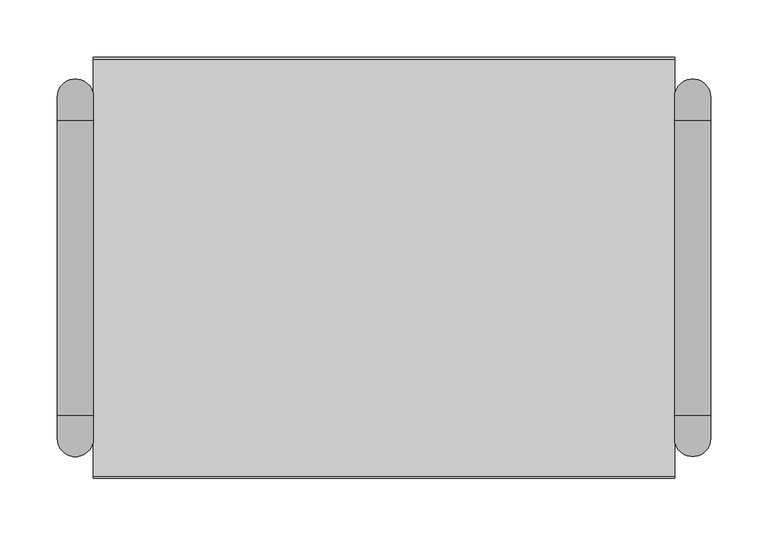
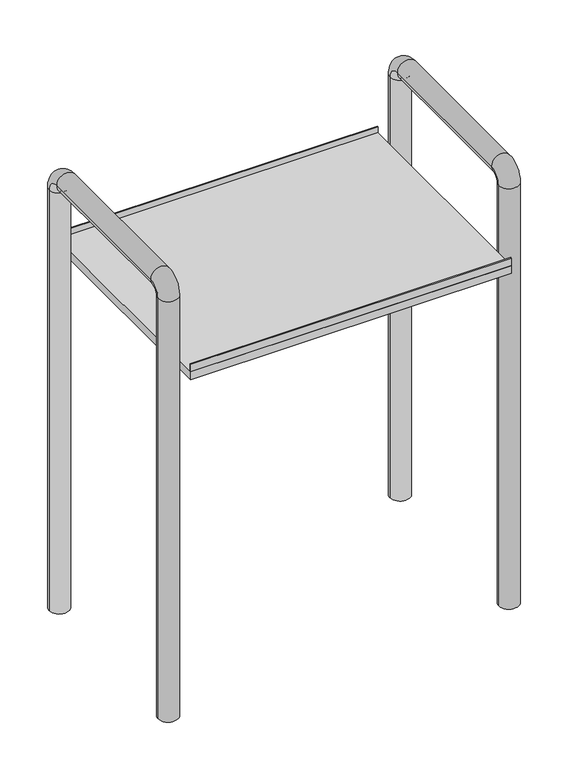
"""IFC4 building model written with IfcOpenShell, lengths in millimetres: furniture geometry, HermanMiller_Carts_CT788_Above-CartShelf : Abv Cart Shlf 20 Wide."""

import ifcopenshell
import ifcopenshell.guid

model = None  # the IFC model being written
_history = None  # IfcOwnerHistory: only IFC2X3 demands one
_inside = {}  # id of a spatial element -> (the spatial element, [elements in it])
_under = {}  # id of a project, library or spatial element -> (it, [spatial elements below it])
_declared = {}  # id of a project -> (the project, [libraries it declares])
_typed = {}  # id of a type object -> (the type object, [elements of that type])
_made_of = {}  # id of a material, layer set ... -> (it, [elements and type objects made of it])


def new_model(schema):
    """Start an empty IFC model of exactly this schema.

    Asked for "IFC4X3", IfcOpenShell would pick the latest addendum, in which some entities
    have other attributes; the version numbers below select the first issue.
    IFC2X3 requires an IfcOwnerHistory on every rooted entity: one is made here for all.
    """
    global model, _history
    if schema == "IFC4X3":
        model = ifcopenshell.file(schema_version=(4, 3, 0, 0))
    else:
        model = ifcopenshell.file(schema=schema)
    _inside.clear()
    _under.clear()
    _declared.clear()
    _typed.clear()
    _made_of.clear()
    _history = None
    if model.schema == "IFC2X3":
        org = make("IfcOrganization", Name="unknown")
        user = make(
            "IfcPersonAndOrganization",
            ThePerson=make("IfcPerson", FamilyName="unknown"),
            TheOrganization=org,
        )
        app = make(
            "IfcApplication",
            ApplicationDeveloper=org,
            Version="unknown",
            ApplicationFullName="unknown",
            ApplicationIdentifier="unknown",
        )
        _history = make(
            "IfcOwnerHistory",
            OwningUser=user,
            OwningApplication=app,
            ChangeAction="ADDED",
            CreationDate=0,
        )
    return model


def make(cls, **values):
    """One entity of the class cls with the attributes given. An attribute that is None is left unset."""
    return model.create_entity(
        cls, **{name: value for name, value in values.items() if value is not None}
    )


def rooted(cls, **values):
    """An entity with a GlobalId (a new one), such as an element, a storey or a relation."""
    return make(cls, GlobalId=ifcopenshell.guid.new(), OwnerHistory=_history, **values)


def si_unit(unit_type, name, prefix=None):
    """IfcSIUnit, for example si_unit("LENGTHUNIT", "METRE", prefix="MILLI")."""
    return make("IfcSIUnit", UnitType=unit_type, Prefix=prefix, Name=name)


def assignment(units):
    """IfcUnitAssignment: the units of a project."""
    return None if units is None else make("IfcUnitAssignment", Units=units)


def point(xyz):
    """IfcCartesianPoint."""
    return None if xyz is None else make("IfcCartesianPoint", Coordinates=xyz)


def direction(xyz):
    """IfcDirection."""
    return None if xyz is None else make("IfcDirection", DirectionRatios=xyz)


def frame(location, z_axis=None, x_axis=None):
    """IfcAxis2Placement3D, a coordinate frame: its origin and axes. An axis left out is left unset."""
    return make(
        "IfcAxis2Placement3D",
        Location=point(location),
        Axis=direction(z_axis),
        RefDirection=direction(x_axis),
    )


def origin():
    """The frame at (0, 0, 0) with its axes left unset."""
    return frame((0.0, 0.0, 0.0))


def place(relative_to, where):
    """IfcLocalPlacement: puts the frame where relative to a parent placement (None: the world)."""
    return make(
        "IfcLocalPlacement", PlacementRelTo=relative_to, RelativePlacement=where
    )


def context(
    kind, dimensions, precision=None, world=None, true_north=None, identifier=None
):
    """IfcGeometricRepresentationContext, for example the 3D "Model" context."""
    return make(
        "IfcGeometricRepresentationContext",
        ContextIdentifier=identifier,
        ContextType=kind,
        CoordinateSpaceDimension=dimensions,
        Precision=precision,
        WorldCoordinateSystem=world,
        TrueNorth=true_north,
    )


def project(units=None, contexts=None):
    """IfcProject with its units and contexts."""
    return rooted(
        "IfcProject",
        Name="project",
        RepresentationContexts=contexts,
        UnitsInContext=assignment(units),
    )


def spatial(cls, under=None, at=None, **own):
    """A site, building, storey or space (cls), placed at a placement, below another one or the project."""
    s = rooted(cls, ObjectPlacement=at, **own)
    if under is not None:
        _under.setdefault(under.id(), (under, []))[1].append(s)
    return s


def polyline(points):
    """IfcPolyline through the points."""
    return make("IfcPolyline", Points=[point(p) for p in points])


def circle_curve(where, radius):
    """IfcCircle in the frame where."""
    return make("IfcCircle", Position=where, Radius=radius)


def ellipse_curve(where, semi_axis1, semi_axis2):
    """IfcEllipse in the frame where."""
    return make(
        "IfcEllipse", Position=where, SemiAxis1=semi_axis1, SemiAxis2=semi_axis2
    )


def trimmed(basis, trim1, trim2, sense, master):
    """IfcTrimmedCurve: the piece of a basis curve between two trims."""
    return make(
        "IfcTrimmedCurve",
        BasisCurve=basis,
        Trim1=trim1,
        Trim2=trim2,
        SenseAgreement=sense,
        MasterRepresentation=master,
    )


def outline(outer, holes=None, kind="AREA"):
    """IfcArbitraryClosedProfileDef: a profile drawn as a closed curve; with holes, ...WithVoids."""
    if holes is None:
        return make("IfcArbitraryClosedProfileDef", ProfileType=kind, OuterCurve=outer)
    return make(
        "IfcArbitraryProfileDefWithVoids",
        ProfileType=kind,
        OuterCurve=outer,
        InnerCurves=holes,
    )


def extrude(swept, where, along, depth):
    """IfcExtrudedAreaSolid: the profile swept, set in the frame where, extruded along a direction by depth."""
    return make(
        "IfcExtrudedAreaSolid",
        SweptArea=swept,
        Position=where,
        ExtrudedDirection=direction(along),
        Depth=depth,
    )


def shape(context_of_items, identifier, shape_type, items):
    """IfcShapeRepresentation: the items that make up one representation, for example the "Body"."""
    return make(
        "IfcShapeRepresentation",
        ContextOfItems=context_of_items,
        RepresentationIdentifier=identifier,
        RepresentationType=shape_type,
        Items=items,
    )


def source(mapping_origin, context_of_items, identifier, shape_type, items):
    """IfcRepresentationMap: a shape defined once, which mapped items show again and again."""
    return make(
        "IfcRepresentationMap",
        MappingOrigin=mapping_origin,
        MappedRepresentation=shape(context_of_items, identifier, shape_type, items),
    )


def transform(
    local_origin,
    x_axis=None,
    y_axis=None,
    z_axis=None,
    scale=None,
    scale2=None,
    scale3=None,
    uniform=True,
):
    """IfcCartesianTransformationOperator3D, or its non-uniform kind. x_axis, y_axis, z_axis: its Axis1, 2, 3."""
    if uniform:
        return make(
            "IfcCartesianTransformationOperator3D",
            Axis1=direction(x_axis),
            Axis2=direction(y_axis),
            LocalOrigin=point(local_origin),
            Scale=scale,
            Axis3=direction(z_axis),
        )
    return make(
        "IfcCartesianTransformationOperator3DnonUniform",
        Axis1=direction(x_axis),
        Axis2=direction(y_axis),
        LocalOrigin=point(local_origin),
        Scale=scale,
        Axis3=direction(z_axis),
        Scale2=scale2,
        Scale3=scale3,
    )


def mapped(mapping_source, mapping_target):
    """IfcMappedItem: shows the shape of a source again, moved by a transform."""
    return make(
        "IfcMappedItem", MappingSource=mapping_source, MappingTarget=mapping_target
    )


def made_of(thing, what):
    """Note that an element or type object is made of a material, layer set ...; save() writes the relation."""
    if what is not None:
        _made_of.setdefault(what.id(), (what, []))[1].append(thing)
    return thing


def element(
    cls,
    number,
    at=None,
    inside=None,
    cuts=None,
    type_object=None,
    material=None,
    context=None,
    identifier="Body",
    shape_type=None,
    held_by="IfcProductDefinitionShape",
    body=None,
    shapes=None,
    **own,
):
    """One element of the class cls, such as IfcWall. Its Tag is "e" and its number.

    at: its placement. inside: the storey or other place that contains it. cuts: it is an
    opening in that element (IfcRelVoidsElement). A single representation is given by context,
    identifier, shape_type and body (its items); several are given by shapes. held_by: the class
    of the entity that holds the representations. save() writes the other relations.
    """
    e = rooted(cls, Tag="e%d" % number, ObjectPlacement=at, **own)
    if body is not None:
        shapes = [shape(context, identifier, shape_type, body)]
    if shapes is not None:
        e.Representation = make(held_by, Representations=shapes)
    if inside is not None:
        _inside.setdefault(inside.id(), (inside, []))[1].append(e)
    if cuts is not None:
        rooted(
            "IfcRelVoidsElement", RelatingBuildingElement=cuts, RelatedOpeningElement=e
        )
    if type_object is not None:
        _typed.setdefault(type_object.id(), (type_object, []))[1].append(e)
    return made_of(e, material)


def aggregate(whole, parts):
    """IfcRelAggregates: a whole, such as a stair, and the parts it consists of."""
    return rooted("IfcRelAggregates", RelatingObject=whole, RelatedObjects=parts)


def save(model, path):
    """Write the relations noted so far, then the file.

    IfcRelAggregates (storeys below a building ...), IfcRelContainedInSpatialStructure (elements
    in a storey), IfcRelDefinesByType, IfcRelAssociatesMaterial and IfcRelDeclares: one each for
    every whole, place, type object, material and project.
    """
    for whole, parts in _under.values():
        aggregate(whole, parts)
    for where, things in _inside.values():
        rooted(
            "IfcRelContainedInSpatialStructure",
            RelatedElements=things,
            RelatingStructure=where,
        )
    for kind, things in _typed.values():
        rooted("IfcRelDefinesByType", RelatedObjects=things, RelatingType=kind)
    for what, things in _made_of.values():
        rooted("IfcRelAssociatesMaterial", RelatedObjects=things, RelatingMaterial=what)
    for by, libraries in _declared.values():
        rooted("IfcRelDeclares", RelatingContext=by, RelatedDefinitions=libraries)
    model.write(path)


def plane_surface(at):
    """IfcPlane: the flat surface through the origin of the frame at, square to its z axis."""
    return make("IfcPlane", Position=at)


def cylinder_surface(at, radius):
    """IfcCylindricalSurface: all points at the distance radius from the z axis of the frame at."""
    return make("IfcCylindricalSurface", Position=at, Radius=radius)


def revolved_surface(curve, axis_point, axis_direction):
    """IfcSurfaceOfRevolution: the curve turned about the line through axis_point along axis_direction."""
    return make(
        "IfcSurfaceOfRevolution",
        SweptCurve=make("IfcArbitraryOpenProfileDef", ProfileType="CURVE", Curve=curve),
        AxisPosition=make("IfcAxis1Placement", Location=point(axis_point), Axis=direction(axis_direction)),
    )


def advanced_brep(points, edges, surfaces, faces):
    """IfcAdvancedBrep: a solid bounded by faces that lie on surfaces and meet in shared edges.

    An edge is (start, end): straight between two places in points (the first is 0);
    or (start, end, curve); or (start, end, curve, False) where it runs against its curve.
    A face is (place in surfaces, loops), or (place, loops, False) where it looks against
    its surface's normal. A loop lists edges by number (the first is 1), with a minus sign
    where the edge is run from its end to its start. The first loop is the outer one.
    """
    corners = [point(p) for p in points]
    vertices = [make("IfcVertexPoint", VertexGeometry=c) for c in corners]
    made = []
    for start, end, *more in edges:
        made.append(
            make(
                "IfcEdgeCurve",
                EdgeStart=vertices[start],
                EdgeEnd=vertices[end],
                EdgeGeometry=more[0] if more else make("IfcPolyline", Points=[corners[start], corners[end]]),
                SameSense=more[1] if len(more) > 1 else True,
            )
        )
    hull = []
    for where, loops, *sense in faces:
        bounds = []
        for j, loop in enumerate(loops):
            ring = [make("IfcOrientedEdge", EdgeElement=made[abs(k) - 1], Orientation=k > 0) for k in loop]
            bounds.append(
                make(
                    "IfcFaceOuterBound" if j == 0 else "IfcFaceBound",
                    Bound=make("IfcEdgeLoop", EdgeList=ring),
                    Orientation=True,
                )
            )
        hull.append(make("IfcAdvancedFace", Bounds=bounds, FaceSurface=surfaces[where], SameSense=sense[0] if sense else True))
    return make("IfcAdvancedBrep", Outer=make("IfcClosedShell", CfsFaces=hull))


def furniture_907d2fab(model_context):
    return source(origin(), model_context, "Body", "SolidModel", [
        extrude(outline(polyline([(238.1923483, 184.15), (238.1923483, -184.15), (-269.8076517, -184.15), (-269.8076517, 184.15), (238.1923483, 184.15)])), frame((0.0, 0.0, 1478.3523277), z_axis=(0.0, 0.0, 1.0), x_axis=(1.0, 0.0, 0.0)), (0.0, 0.0, 1.0), 12.7000969),
        extrude(outline(polyline([(-269.8076517, -184.15), (-269.8076517, 184.15), (238.1923483, 184.15), (238.1923483, -184.15), (-269.8076517, -184.15)])), frame((0.0, 0.0, 1478.3523277), z_axis=(0.0, 0.0, 1.0), x_axis=(1.0, 0.0, 0.0)), (0.0, 0.0, 1.0), 12.7000969),
        advanced_brep(
        [(238.1923483, 149.1641773, 900.5024246), (269.9423483, 149.1641773, 900.5024246), (238.1923483, 149.1641773, 1604.0915489), (269.9423483, 149.1641773, 1604.0915489), (269.9423483, 129.1268536, 1624.1288726), (238.1923483, 129.1268536, 1624.1288726), (238.1923483, -129.1269051, 1624.1288726), (269.9423483, -129.1269051, 1624.1288726), (269.9423483, -149.1641773, 1604.0916004), (238.1923483, -149.1641773, 1604.0916004), (238.1923483, -149.1641773, 900.5024246), (269.9423483, -149.1641773, 900.5024246)],
        [
            (0, 1, circle_curve(frame((254.0673483, 149.1641773, 900.5024246), z_axis=(0.0, 0.0, -1.0), x_axis=(1.0, 0.0, 0.0)), 15.875)),
            (1, 0, circle_curve(frame((254.0673483, 149.1641773, 900.5024246), z_axis=(0.0, 0.0, -1.0), x_axis=(1.0, 0.0, 0.0)), 15.875)),
            (0, 2),
            (2, 3, circle_curve(frame((254.0673483, 149.1641773, 1604.0915489), z_axis=(0.0, 0.0, -1.0), x_axis=(1.0, 0.0, 0.0)), 15.875)),
            (3, 1),
            (3, 2, circle_curve(frame((254.0673483, 149.1641773, 1604.0915489), z_axis=(0.0, 0.0, -1.0), x_axis=(1.0, 0.0, 0.0)), 15.875)),
            (4, 3, circle_curve(frame((269.9423483, 129.1268536, 1604.0915489), z_axis=(-1.0, 0.0, 0.0), x_axis=(0.0, 1.0, 0.0)), 20.0373237)),
            (2, 5, circle_curve(frame((238.1923483, 129.1268536, 1604.0915489), z_axis=(1.0, 0.0, 0.0), x_axis=(0.0, 1.0, 0.0)), 20.0373237)),
            (5, 4, circle_curve(frame((254.0673483, 129.1268536, 1624.1288726), z_axis=(0.0, 1.0, 0.0), x_axis=(1.0, 0.0, 0.0)), 15.875)),
            (4, 5, circle_curve(frame((254.0673483, 129.1268536, 1624.1288726), z_axis=(0.0, 1.0, 0.0), x_axis=(1.0, 0.0, 0.0)), 15.875)),
            (5, 6),
            (6, 7, circle_curve(frame((254.0673483, -129.1269051, 1624.1288726), z_axis=(0.0, 1.0, 0.0), x_axis=(1.0, 0.0, 0.0)), 15.875)),
            (7, 4),
            (7, 6, circle_curve(frame((254.0673483, -129.1269051, 1624.1288726), z_axis=(0.0, 1.0, 0.0), x_axis=(1.0, 0.0, 0.0)), 15.875)),
            (8, 7, circle_curve(frame((269.9423483, -129.1269051, 1604.0916004), z_axis=(-1.0, 0.0, 0.0), x_axis=(0.0, 0.0, 1.0)), 20.0372722)),
            (6, 9, circle_curve(frame((238.1923483, -129.1269051, 1604.0916004), z_axis=(1.0, 0.0, 0.0), x_axis=(0.0, 0.0, 1.0)), 20.0372722)),
            (9, 8, circle_curve(frame((254.0673483, -149.1641773, 1604.0916004), z_axis=(0.0, 0.0, 1.0), x_axis=(1.0, 0.0, 0.0)), 15.875)),
            (8, 9, circle_curve(frame((254.0673483, -149.1641773, 1604.0916004), z_axis=(0.0, 0.0, 1.0), x_axis=(1.0, 0.0, 0.0)), 15.875)),
            (10, 11, circle_curve(frame((254.0673483, -149.1641773, 900.5024246), z_axis=(0.0, 0.0, -1.0), x_axis=(1.0, 0.0, 0.0)), 15.875)),
            (11, 10, circle_curve(frame((254.0673483, -149.1641773, 900.5024246), z_axis=(0.0, 0.0, -1.0), x_axis=(1.0, 0.0, 0.0)), 15.875)),
            (9, 10),
            (11, 8),
        ],
        [
            plane_surface(frame((0.0673483, 165.1, 900.5024246), z_axis=(0.0, 0.0, -1.0), x_axis=(1.0, 0.0, 0.0))),
            cylinder_surface(frame((254.0673483, 149.1641773, 900.5024246), z_axis=(0.0, 0.0, -1.0), x_axis=(1.0, 0.0, 0.0)), 15.875),
            revolved_surface(trimmed(ellipse_curve(frame((254.0673483, 149.1641773, 1604.0915489), z_axis=(0.0, 0.0, -1.0), x_axis=(1.0, 0.0, 0.0)), 15.875, 15.875), [point((238.1923483, 149.1641773, 1604.0915489))], [point((269.9423483, 149.1641773, 1604.0915489))], True, "CARTESIAN"), (0.0673483, 129.1268536, 1604.0915489), (1.0, 0.0, 0.0)),
            revolved_surface(trimmed(ellipse_curve(frame((254.0673483, 149.1641773, 1604.0915489), z_axis=(0.0, 0.0, -1.0), x_axis=(1.0, 0.0, 0.0)), 15.875, 15.875), [point((269.9423483, 149.1641773, 1604.0915489))], [point((238.1923483, 149.1641773, 1604.0915489))], True, "CARTESIAN"), (0.0673483, 129.1268536, 1604.0915489), (1.0, 0.0, 0.0)),
            cylinder_surface(frame((254.0673483, 129.1268536, 1624.1288726), z_axis=(0.0, 1.0, 0.0), x_axis=(1.0, 0.0, 0.0)), 15.875),
            revolved_surface(trimmed(ellipse_curve(frame((254.0673483, -129.1269051, 1624.1288726), z_axis=(0.0, 1.0, 0.0), x_axis=(1.0, 0.0, 0.0)), 15.875, 15.875), [point((238.1923483, -129.1269051, 1624.1288726))], [point((269.9423483, -129.1269051, 1624.1288726))], True, "CARTESIAN"), (0.0673483, -129.1269051, 1604.0916004), (1.0, 0.0, 0.0)),
            revolved_surface(trimmed(ellipse_curve(frame((254.0673483, -129.1269051, 1624.1288726), z_axis=(0.0, 1.0, 0.0), x_axis=(1.0, 0.0, 0.0)), 15.875, 15.875), [point((269.9423483, -129.1269051, 1624.1288726))], [point((238.1923483, -129.1269051, 1624.1288726))], True, "CARTESIAN"), (0.0673483, -129.1269051, 1604.0916004), (1.0, 0.0, 0.0)),
            plane_surface(frame((0.0673483, -165.1, 900.5024246), z_axis=(0.0, 0.0, -1.0), x_axis=(1.0, 0.0, 0.0))),
            cylinder_surface(frame((254.0673483, -149.1641773, 1604.0916004), z_axis=(0.0, 0.0, 1.0), x_axis=(1.0, 0.0, 0.0)), 15.875),
        ],
        [
            (0, [[1, 2]]),
            (1, [[-1, 3, 4, 5]]),
            (1, [[-2, -5, 6, -3]]),
            (2, [[7, -4, 8, 9]]),
            (3, [[-8, -6, -7, 10]]),
            (4, [[-9, 11, 12, 13]]),
            (4, [[-10, -13, 14, -11]]),
            (5, [[15, -12, 16, 17]]),
            (6, [[-16, -14, -15, 18]]),
            (7, [[19, 20]]),
            (8, [[-17, 21, -20, 22]]),
            (8, [[-18, -22, -19, -21]]),
        ],
    ),
        advanced_brep(
        [(-301.5576517, 149.225, 900.5024246), (-269.8076517, 149.225, 900.5024246), (-301.5576517, 149.225, 1604.0915489), (-269.8076517, 149.225, 1604.0915489), (-269.8076517, 129.1268536, 1624.1896954), (-301.5576517, 129.1268536, 1624.1896954), (-301.5576517, -129.1269051, 1624.1896954), (-269.8076517, -129.1269051, 1624.1896954), (-269.8076517, -149.225, 1604.0916004), (-301.5576517, -149.225, 1604.0916004), (-301.5576517, -149.225, 900.5024246), (-269.8076517, -149.225, 900.5024246)],
        [
            (0, 1, circle_curve(frame((-285.6826517, 149.225, 900.5024246), z_axis=(0.0, 0.0, -1.0), x_axis=(1.0, 0.0, 0.0)), 15.875)),
            (1, 0, circle_curve(frame((-285.6826517, 149.225, 900.5024246), z_axis=(0.0, 0.0, -1.0), x_axis=(1.0, 0.0, 0.0)), 15.875)),
            (0, 2),
            (2, 3, circle_curve(frame((-285.6826517, 149.225, 1604.0915489), z_axis=(0.0, 0.0, -1.0), x_axis=(1.0, 0.0, 0.0)), 15.875)),
            (3, 1),
            (3, 2, circle_curve(frame((-285.6826517, 149.225, 1604.0915489), z_axis=(0.0, 0.0, -1.0), x_axis=(1.0, 0.0, 0.0)), 15.875)),
            (4, 3, circle_curve(frame((-269.8076517, 129.1268536, 1604.0915489), z_axis=(-1.0, 0.0, 0.0), x_axis=(0.0, 1.0, 0.0)), 20.0981464)),
            (2, 5, circle_curve(frame((-301.5576517, 129.1268536, 1604.0915489), z_axis=(1.0, 0.0, 0.0), x_axis=(0.0, 1.0, 0.0)), 20.0981464)),
            (5, 4, circle_curve(frame((-285.6826517, 129.1268536, 1624.1896954), z_axis=(0.0, 1.0, 0.0), x_axis=(1.0, 0.0, 0.0)), 15.875)),
            (4, 5, circle_curve(frame((-285.6826517, 129.1268536, 1624.1896954), z_axis=(0.0, 1.0, 0.0), x_axis=(1.0, 0.0, 0.0)), 15.875)),
            (5, 6),
            (6, 7, circle_curve(frame((-285.6826517, -129.1269051, 1624.1896954), z_axis=(0.0, 1.0, 0.0), x_axis=(1.0, 0.0, 0.0)), 15.875)),
            (7, 4),
            (7, 6, circle_curve(frame((-285.6826517, -129.1269051, 1624.1896954), z_axis=(0.0, 1.0, 0.0), x_axis=(1.0, 0.0, 0.0)), 15.875)),
            (8, 7, circle_curve(frame((-269.8076517, -129.1269051, 1604.0916004), z_axis=(-1.0, 0.0, 0.0), x_axis=(0.0, 0.0, 1.0)), 20.0980949)),
            (6, 9, circle_curve(frame((-301.5576517, -129.1269051, 1604.0916004), z_axis=(1.0, 0.0, 0.0), x_axis=(0.0, 0.0, 1.0)), 20.0980949)),
            (9, 8, circle_curve(frame((-285.6826517, -149.225, 1604.0916004), z_axis=(0.0, 0.0, 1.0), x_axis=(1.0, 0.0, 0.0)), 15.875)),
            (8, 9, circle_curve(frame((-285.6826517, -149.225, 1604.0916004), z_axis=(0.0, 0.0, 1.0), x_axis=(1.0, 0.0, 0.0)), 15.875)),
            (10, 11, circle_curve(frame((-285.6826517, -149.225, 900.5024246), z_axis=(0.0, 0.0, -1.0), x_axis=(1.0, 0.0, 0.0)), 15.875)),
            (11, 10, circle_curve(frame((-285.6826517, -149.225, 900.5024246), z_axis=(0.0, 0.0, -1.0), x_axis=(1.0, 0.0, 0.0)), 15.875)),
            (9, 10),
            (11, 8),
        ],
        [
            plane_surface(frame((0.0673483, 165.1, 900.5024246), z_axis=(0.0, 0.0, -1.0), x_axis=(1.0, 0.0, 0.0))),
            cylinder_surface(frame((-285.6826517, 149.225, 900.5024246), z_axis=(0.0, 0.0, -1.0), x_axis=(1.0, 0.0, 0.0)), 15.875),
            revolved_surface(trimmed(ellipse_curve(frame((-285.6826517, 149.225, 1604.0915489), z_axis=(0.0, 0.0, -1.0), x_axis=(1.0, 0.0, 0.0)), 15.875, 15.875), [point((-301.5576517, 149.225, 1604.0915489))], [point((-269.8076517, 149.225, 1604.0915489))], True, "CARTESIAN"), (0.0673483, 129.1268536, 1604.0915489), (1.0, 0.0, 0.0)),
            revolved_surface(trimmed(ellipse_curve(frame((-285.6826517, 149.225, 1604.0915489), z_axis=(0.0, 0.0, -1.0), x_axis=(1.0, 0.0, 0.0)), 15.875, 15.875), [point((-269.8076517, 149.225, 1604.0915489))], [point((-301.5576517, 149.225, 1604.0915489))], True, "CARTESIAN"), (0.0673483, 129.1268536, 1604.0915489), (1.0, 0.0, 0.0)),
            cylinder_surface(frame((-285.6826517, 129.1268536, 1624.1896954), z_axis=(0.0, 1.0, 0.0), x_axis=(1.0, 0.0, 0.0)), 15.875),
            revolved_surface(trimmed(ellipse_curve(frame((-285.6826517, -129.1269051, 1624.1896954), z_axis=(0.0, 1.0, 0.0), x_axis=(1.0, 0.0, 0.0)), 15.875, 15.875), [point((-301.5576517, -129.1269051, 1624.1896954))], [point((-269.8076517, -129.1269051, 1624.1896954))], True, "CARTESIAN"), (0.0673483, -129.1269051, 1604.0916004), (1.0, 0.0, 0.0)),
            revolved_surface(trimmed(ellipse_curve(frame((-285.6826517, -129.1269051, 1624.1896954), z_axis=(0.0, 1.0, 0.0), x_axis=(1.0, 0.0, 0.0)), 15.875, 15.875), [point((-269.8076517, -129.1269051, 1624.1896954))], [point((-301.5576517, -129.1269051, 1624.1896954))], True, "CARTESIAN"), (0.0673483, -129.1269051, 1604.0916004), (1.0, 0.0, 0.0)),
            plane_surface(frame((0.0673483, -165.1, 900.5024246), z_axis=(0.0, 0.0, -1.0), x_axis=(1.0, 0.0, 0.0))),
            cylinder_surface(frame((-285.6826517, -149.225, 1604.0916004), z_axis=(0.0, 0.0, 1.0), x_axis=(1.0, 0.0, 0.0)), 15.875),
        ],
        [
            (0, [[1, 2]]),
            (1, [[-1, 3, 4, 5]]),
            (1, [[-2, -5, 6, -3]]),
            (2, [[7, -4, 8, 9]]),
            (3, [[-8, -6, -7, 10]]),
            (4, [[-9, 11, 12, 13]]),
            (4, [[-10, -13, 14, -11]]),
            (5, [[15, -12, 16, 17]]),
            (6, [[-16, -14, -15, 18]]),
            (7, [[19, 20]]),
            (8, [[-17, 21, -20, 22]]),
            (8, [[-18, -22, -19, -21]]),
        ],
    ),
        extrude(outline(polyline([(-269.8076517, 182.5625), (-269.8076517, 184.15), (238.1923483, 184.15), (238.1923483, 182.5625), (-269.8076517, 182.5625)])), frame((0.0, 0.0, 1491.0524246), z_axis=(0.0, 0.0, 1.0), x_axis=(1.0, 0.0, 0.0)), (0.0, 0.0, 1.0), 10.2325122),
        extrude(outline(polyline([(-269.8076517, -184.15), (-269.8076517, -182.5625), (238.1923483, -182.5625), (238.1923483, -184.15), (-269.8076517, -184.15)])), frame((0.0, 0.0, 1491.0524246), z_axis=(0.0, 0.0, 1.0), x_axis=(1.0, 0.0, 0.0)), (0.0, 0.0, 1.0), 12.6999516),
    ])


if __name__ == "__main__":
    model = new_model("IFC4")
    model_context = context("Model", 3, world=origin())
    ifc_project = project(units=[si_unit("LENGTHUNIT", "METRE", prefix="MILLI")], contexts=[model_context])
    site = spatial("IfcSite", under=ifc_project)
    building = spatial("IfcBuilding", under=site)
    placement = place(None, origin())
    furniture_shape = furniture_907d2fab(model_context)
    element("IfcFurniture", 1, ObjectType="HermanMiller_Carts_CT788_Above-CartShelf : Abv Cart Shlf 20 Wide", at=placement, inside=building, context=model_context, shape_type="MappedRepresentation", body=[
        mapped(furniture_shape, transform((0.0, 0.0, 0.0), x_axis=(1.0, 0.0, 0.0), y_axis=(0.0, 1.0, 0.0), z_axis=(0.0, 0.0, 1.0))),
    ])
    save(model, "model.ifc")
